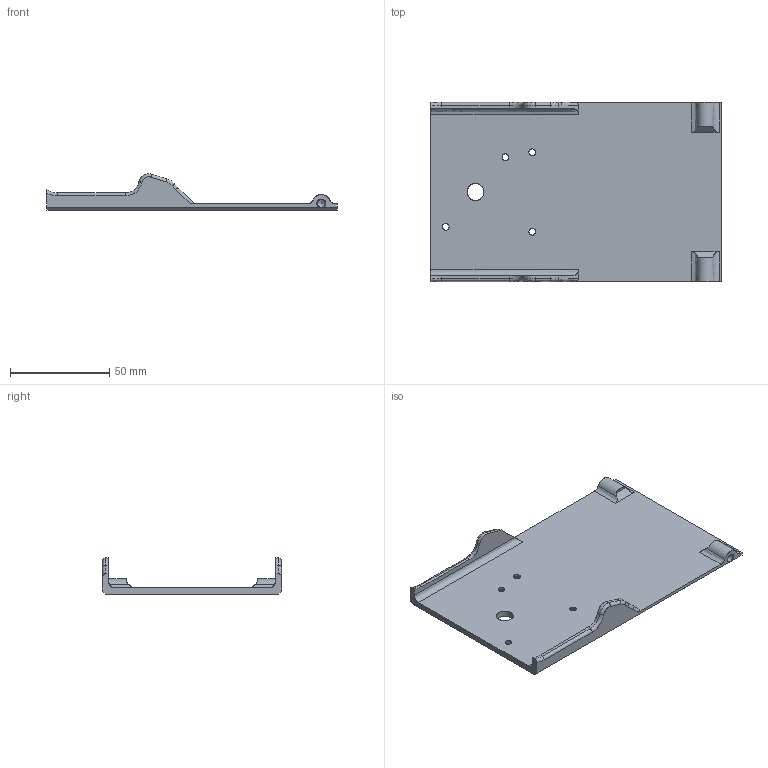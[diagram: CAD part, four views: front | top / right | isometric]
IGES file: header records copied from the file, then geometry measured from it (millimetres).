
Global section: file name: C:\Users\gehrichcr\Documents\1 Drive Backup\Practice\Inspire\V1.5\IGES\Frame Base Plate 90mm V1.5.igs; native system: NX V8.5; preprocessor: SIEMENS PLM Software NX 8.5; date: 20150608.121627; units: millimetre
Bounding box: 146.01 x 90 x 18.27 mm (x, y, z)
Surface area: 30038.9 mm2 (no closed solid volume)
Topology: 0 solids, 0 shells, 78 faces, 566 edges, 555 vertices
Faces by surface type: bspline 78
